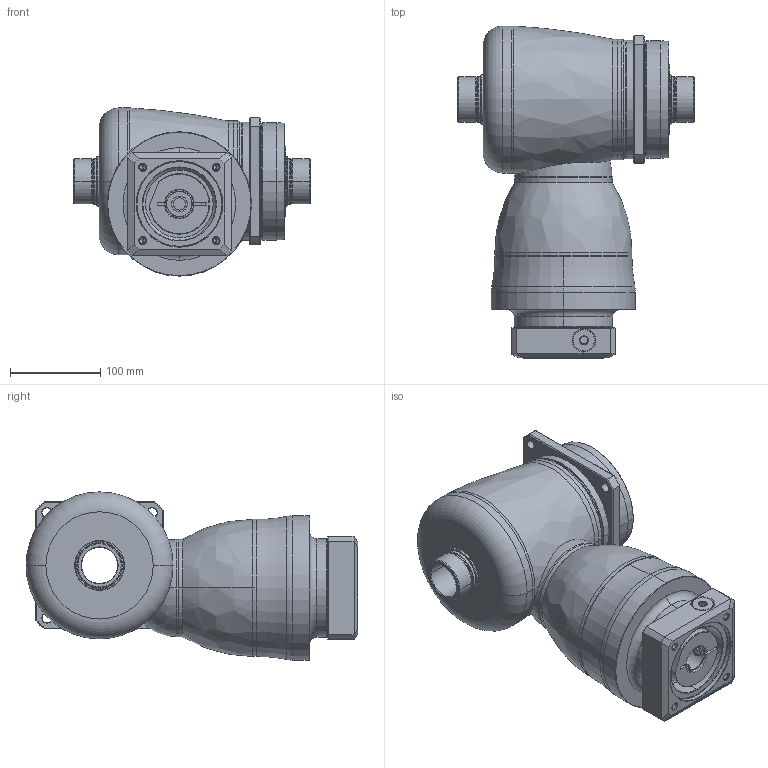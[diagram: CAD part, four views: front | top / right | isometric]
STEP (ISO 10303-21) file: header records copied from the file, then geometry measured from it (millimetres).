
FILE_DESCRIPTION((''),'2;1');
FILE_NAME('KF140_S4_2ST_28-P0409600101_ASM','2016-07-25T',('d01943'),(''),'PRO/ENGINEER BY PARAMETRIC TECHNOLOGY CORPORATION, 2008410','PRO/ENGINEER BY PARAMETRIC TECHNOLOGY CORPORATION, 2008410','');
FILE_SCHEMA(('CONFIG_CONTROL_DESIGN'));
Length unit declared in the file: millimetre
Products named in the file (11): P1008500002; P1804500001; P0914500001; P1315500001; P1007500001; P1317500201; P0409600101; P0503600010; P0912402001; 21711418017; KF140_S4_2ST_28-P0409600101_ASM
Assembly tree (10 placements, depth 2):
  KF140_S4_2ST_28-P0409600101_ASM
    P1008500002
    P1804500001
    P0914500001
    P1315500001
    P1007500001
    P1317500201
    P0409600101
    P0503600010
    P0912402001
    21711418017
Bounding box: 262 x 368 x 186.5 mm (x, y, z)
Volume: 5310580.2 mm3; surface area: 599470.1 mm2
Topology: 11 solids, 11 shells, 498 faces, 1098 edges, 646 vertices
Faces by surface type: cylinder 170, cone 134, plane 101, torus 70, bspline 21, sphere 2
Entity records: 18761 total; most frequent: CARTESIAN_POINT 7480, DIRECTION 2523, ORIENTED_EDGE 2160, EDGE_CURVE 1080, AXIS2_PLACEMENT_3D 1072, VERTEX_POINT 646, CIRCLE 574, EDGE_LOOP 570
